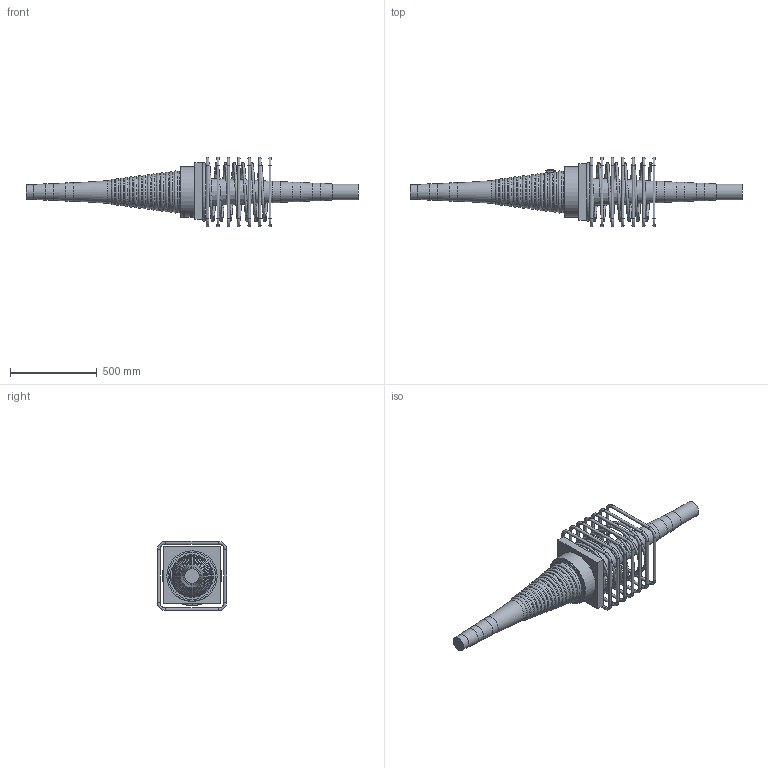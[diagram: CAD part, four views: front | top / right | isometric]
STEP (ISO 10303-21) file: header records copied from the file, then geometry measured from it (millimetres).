
FILE_DESCRIPTION(/* description */ (''),/* implementation_level */ '2;1');
FILE_NAME(/* name */ 'Z:\04 Publications\05 Give-out\BBR\6_3D_Models\BBR VT CONA CMI\BBR VT CONA CMI SP\01606\BBR VT CONA CMI SP 1606_Couler K Assembly_CS-34,28.stp',/* time_stamp */ '2017-05-05T15:47:46+02:00',/* author */ ('IP'),/* organization */ (''),/* preprocessor_version */ 'ST-DEVELOPER v16.1',/* originating_system */ 'Autodesk Inventor 2016',/* authorisation */ '');
FILE_SCHEMA (('AUTOMOTIVE_DESIGN { 1 0 10303 214 3 1 1 }'));
Products named in the file (1): BBR VT CONA CMI SP 1606_Couler K Assembly_CS-34,28
Bounding box: 1911 x 400 x 400 mm (x, y, z)
Volume: 40256825.8 mm3; surface area: 1939511.7 mm2
Topology: 9 solids, 9 shells, 883 faces, 2291 edges, 1472 vertices
Faces by surface type: bspline 423, plane 255, cylinder 103, torus 85, cone 17
Full cylindrical faces by diameter (mm): 16 x28, 34 x1, 57 x1, 84 x1, 91.725 x1, 94 x1, 101.793 x1, 104 x1, 111.862 x1, 121.932 x1, 273 x1, 290 x1
Entity records: 40215 total; most frequent: CARTESIAN_POINT 21512, ORIENTED_EDGE 4294, DIRECTION 2640, EDGE_CURVE 2145, VERTEX_POINT 1468, EDGE_LOOP 1089, FACE_OUTER_BOUND 883, ADVANCED_FACE 883
